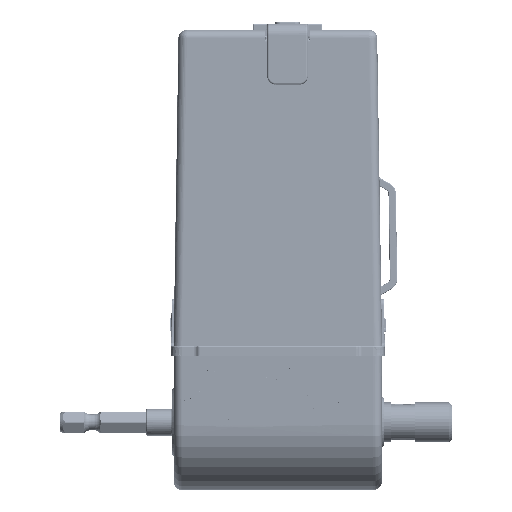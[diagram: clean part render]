
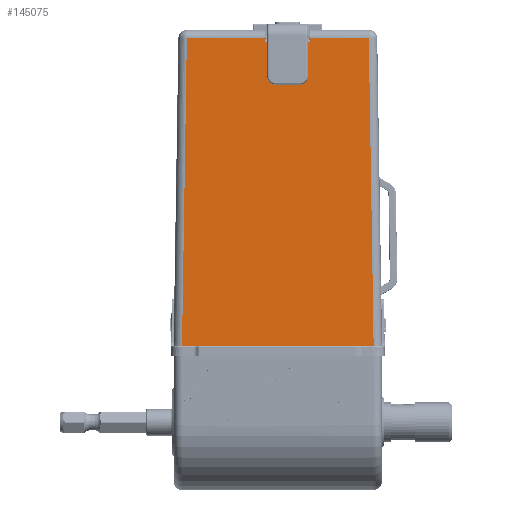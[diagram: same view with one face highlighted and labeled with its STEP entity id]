
A CAD part, left-side view. The second image highlights one B-rep face of the part: STEP entity #145075.
In plain terms, the highlighted planar face has unit normal (-1, 0, 0.016).
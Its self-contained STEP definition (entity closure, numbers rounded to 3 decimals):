
#1186=DIRECTION('',(0.,-1.,0.));
#1187=VECTOR('',#1186,56.64);
#1188=CARTESIAN_POINT('',(-20.57,28.32,22.5));
#1189=LINE('',#1188,#1187);
#1217=CARTESIAN_POINT('',(-20.57,28.32,22.5));
#1219=CARTESIAN_POINT('',(-19.316,-8.752,
102.333));
#1220=CARTESIAN_POINT('',(-19.262,-8.761,
105.727));
#1221=CARTESIAN_POINT('',(-19.209,-8.768,
109.121));
#1222=CARTESIAN_POINT('',(-19.156,-8.775,
112.516));
#1224=DIRECTION('',(-0.016,-0.016,-1.));
#1225=VECTOR('',#1224,91.062);
#1226=CARTESIAN_POINT('',(-19.139,-26.89,
113.539));
#1227=LINE('',#1226,#1225);
#1228=DIRECTION('',(0.016,-0.016,1.));
#1229=VECTOR('',#1228,91.062);
#1230=CARTESIAN_POINT('',(-20.57,28.32,22.5));
#1231=LINE('',#1230,#1229);
#1252=CARTESIAN_POINT('',(-19.316,-8.752,
102.333));
#1253=CARTESIAN_POINT('',(-19.32,-8.752,
102.075));
#1254=CARTESIAN_POINT('',(-19.327,-8.672,
101.588));
#1255=CARTESIAN_POINT('',(-19.338,-8.326,
100.908));
#1256=CARTESIAN_POINT('',(-19.346,-7.79,
100.374));
#1257=CARTESIAN_POINT('',(-19.352,-7.11,
100.03));
#1258=CARTESIAN_POINT('',(-19.353,-6.623,
99.952));
#1259=CARTESIAN_POINT('',(-19.353,-6.365,
99.952));
#1276=DIRECTION('',(0.,1.,0.));
#1277=VECTOR('',#1276,7.);
#1278=CARTESIAN_POINT('',(-19.353,-6.365,
99.952));
#1279=LINE('',#1278,#1277);
#1284=CARTESIAN_POINT('',(-19.353,0.635,
99.952));
#1285=CARTESIAN_POINT('',(-19.353,0.893,
99.952));
#1286=CARTESIAN_POINT('',(-19.352,1.38,100.03));
#1287=CARTESIAN_POINT('',(-19.346,2.06,100.374));
#1288=CARTESIAN_POINT('',(-19.338,2.596,100.908));
#1289=CARTESIAN_POINT('',(-19.327,2.942,101.588));
#1290=CARTESIAN_POINT('',(-19.32,3.022,102.075));
#1291=CARTESIAN_POINT('',(-19.316,3.022,102.333));
#1308=CARTESIAN_POINT('',(-19.316,3.022,102.333));
#1309=CARTESIAN_POINT('',(-19.298,3.025,103.464));
#1310=CARTESIAN_POINT('',(-19.262,3.039,105.727));
#1311=CARTESIAN_POINT('',(-19.209,3.028,109.121));
#1312=CARTESIAN_POINT('',(-19.173,3.043,111.384));
#1313=CARTESIAN_POINT('',(-19.156,3.045,112.516));
#1339=DIRECTION('',(0.,1.,0.));
#1340=VECTOR('',#1339,0.823);
#1341=CARTESIAN_POINT('',(-19.156,3.045,112.516));
#1342=LINE('',#1341,#1340);
#1361=DIRECTION('',(0.,1.,0.));
#1362=VECTOR('',#1361,0.823);
#1363=CARTESIAN_POINT('',(-19.156,-9.598,
112.516));
#1364=LINE('',#1363,#1362);
#1758=DIRECTION('',(0.016,0.017,1.));
#1759=VECTOR('',#1758,1.024);
#1760=CARTESIAN_POINT('',(-19.156,3.868,112.516));
#1761=LINE('',#1760,#1759);
#1781=DIRECTION('',(0.,1.,0.));
#1782=VECTOR('',#1781,23.004);
#1783=CARTESIAN_POINT('',(-19.139,3.886,113.539));
#1784=LINE('',#1783,#1782);
#27087=DIRECTION('',(0.,1.,0.));
#27088=VECTOR('',#27087,17.274);
#27089=CARTESIAN_POINT('',(-19.139,-26.89,
113.539));
#27090=LINE('',#27089,#27088);
#27091=DIRECTION('',(-0.016,0.017,-1.));
#27092=VECTOR('',#27091,1.024);
#27093=CARTESIAN_POINT('',(-19.139,-9.616,
113.539));
#27094=LINE('',#27093,#27092);
#115662=VERTEX_POINT('',#1217);
#115663=CARTESIAN_POINT('',(-19.139,26.89,
113.539));
#115664=VERTEX_POINT('',#115663);
#115665=CARTESIAN_POINT('',(-20.57,-28.32,
22.5));
#115666=VERTEX_POINT('',#115665);
#115668=VERTEX_POINT('',#1219);
#115669=VERTEX_POINT('',#1222);
#115670=CARTESIAN_POINT('',(-19.156,-9.598,
112.516));
#115671=VERTEX_POINT('',#115670);
#115672=CARTESIAN_POINT('',(-19.139,-9.616,
113.539));
#115673=VERTEX_POINT('',#115672);
#115674=CARTESIAN_POINT('',(-19.139,-26.89,
113.539));
#115675=VERTEX_POINT('',#115674);
#115676=CARTESIAN_POINT('',(-19.139,3.886,
113.539));
#115677=VERTEX_POINT('',#115676);
#115678=CARTESIAN_POINT('',(-19.156,3.868,
112.516));
#115679=VERTEX_POINT('',#115678);
#115680=CARTESIAN_POINT('',(-19.156,3.045,
112.516));
#115681=VERTEX_POINT('',#115680);
#115682=VERTEX_POINT('',#1308);
#115683=VERTEX_POINT('',#1284);
#115684=CARTESIAN_POINT('',(-19.353,-6.365,
99.952));
#115685=VERTEX_POINT('',#115684);
#145042=CARTESIAN_POINT('',(-20.5,31.896,26.932));
#145043=DIRECTION('',(-1.,0.,0.016));
#145044=DIRECTION('',(0.,1.,0.));
#145045=AXIS2_PLACEMENT_3D('',#145042,#145043,#145044);
#145046=PLANE('',#145045);
#145048=ORIENTED_EDGE('',*,*,#145047,.T.);
#145050=ORIENTED_EDGE('',*,*,#145049,.F.);
#145052=ORIENTED_EDGE('',*,*,#145051,.F.);
#145054=ORIENTED_EDGE('',*,*,#145053,.F.);
#145056=ORIENTED_EDGE('',*,*,#145055,.T.);
#145057=ORIENTED_EDGE('',*,*,#145015,.F.);
#145058=ORIENTED_EDGE('',*,*,#144998,.T.);
#145060=ORIENTED_EDGE('',*,*,#145059,.F.);
#145062=ORIENTED_EDGE('',*,*,#145061,.F.);
#145064=ORIENTED_EDGE('',*,*,#145063,.F.);
#145066=ORIENTED_EDGE('',*,*,#145065,.F.);
#145068=ORIENTED_EDGE('',*,*,#145067,.F.);
#145070=ORIENTED_EDGE('',*,*,#145069,.F.);
#145072=ORIENTED_EDGE('',*,*,#145071,.F.);
#145073=EDGE_LOOP('',(#145048,#145050,#145052,#145054,#145056,#145057,#145058,
#145060,#145062,#145064,#145066,#145068,#145070,#145072));
#145074=FACE_OUTER_BOUND('',#145073,.F.);
#1223=B_SPLINE_CURVE_WITH_KNOTS('',3,(#1219,#1220,#1221,#1222),.UNSPECIFIED.,
.F.,.F.,(4,4),(0.,1.),.UNSPECIFIED.);
#1260=B_SPLINE_CURVE_WITH_KNOTS('',3,(#1252,#1253,#1254,#1255,#1256,#1257,#1258,
#1259),.UNSPECIFIED.,.F.,.F.,(4,1,1,1,1,4),(0.,0.2,0.4,0.6,0.8,1.),
.UNSPECIFIED.);
#1292=B_SPLINE_CURVE_WITH_KNOTS('',3,(#1284,#1285,#1286,#1287,#1288,#1289,#1290,
#1291),.UNSPECIFIED.,.F.,.F.,(4,1,1,1,1,4),(0.,0.2,0.4,0.6,0.8,1.),
.UNSPECIFIED.);
#1314=B_SPLINE_CURVE_WITH_KNOTS('',3,(#1308,#1309,#1310,#1311,#1312,#1313),
.UNSPECIFIED.,.F.,.F.,(4,1,1,4),(0.,0.333,0.667,1.),
.UNSPECIFIED.);
#144998=EDGE_CURVE('',#115662,#115664,#1231,.T.);
#145015=EDGE_CURVE('',#115662,#115666,#1189,.T.);
#145047=EDGE_CURVE('',#115668,#115669,#1223,.T.);
#145049=EDGE_CURVE('',#115671,#115669,#1364,.T.);
#145051=EDGE_CURVE('',#115673,#115671,#27094,.T.);
#145053=EDGE_CURVE('',#115675,#115673,#27090,.T.);
#145055=EDGE_CURVE('',#115675,#115666,#1227,.T.);
#145059=EDGE_CURVE('',#115677,#115664,#1784,.T.);
#145061=EDGE_CURVE('',#115679,#115677,#1761,.T.);
#145063=EDGE_CURVE('',#115681,#115679,#1342,.T.);
#145065=EDGE_CURVE('',#115682,#115681,#1314,.T.);
#145067=EDGE_CURVE('',#115683,#115682,#1292,.T.);
#145069=EDGE_CURVE('',#115685,#115683,#1279,.T.);
#145071=EDGE_CURVE('',#115668,#115685,#1260,.T.);
#145075=ADVANCED_FACE('',(#145074),#145046,.T.);
